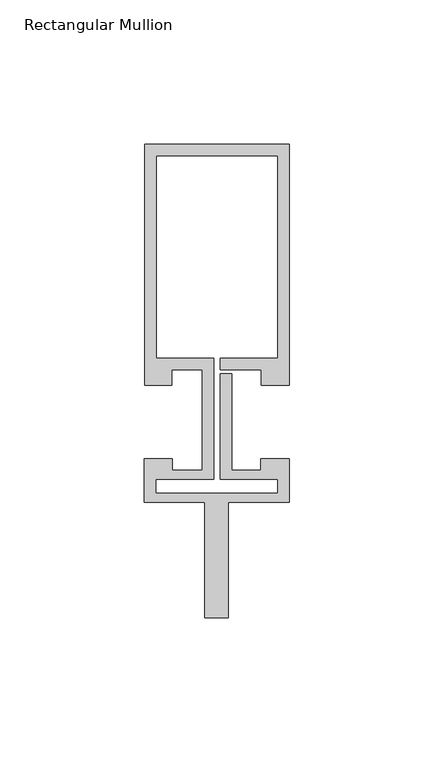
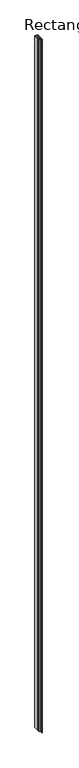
"""IFC4 building model written with IfcOpenShell, lengths in millimetres: member geometry, Rectangular Mullion : Reynaers_CW-50_Transom-Transom_83.5mm_Facecap-06B."""

import ifcopenshell
import ifcopenshell.guid

model = None  # the IFC model being written
_history = None  # IfcOwnerHistory: only IFC2X3 demands one
_inside = {}  # id of a spatial element -> (the spatial element, [elements in it])
_under = {}  # id of a project, library or spatial element -> (it, [spatial elements below it])
_declared = {}  # id of a project -> (the project, [libraries it declares])
_typed = {}  # id of a type object -> (the type object, [elements of that type])
_made_of = {}  # id of a material, layer set ... -> (it, [elements and type objects made of it])


def new_model(schema):
    """Start an empty IFC model of exactly this schema.

    Asked for "IFC4X3", IfcOpenShell would pick the latest addendum, in which some entities
    have other attributes; the version numbers below select the first issue.
    IFC2X3 requires an IfcOwnerHistory on every rooted entity: one is made here for all.
    """
    global model, _history
    if schema == "IFC4X3":
        model = ifcopenshell.file(schema_version=(4, 3, 0, 0))
    else:
        model = ifcopenshell.file(schema=schema)
    _inside.clear()
    _under.clear()
    _declared.clear()
    _typed.clear()
    _made_of.clear()
    _history = None
    if model.schema == "IFC2X3":
        org = make("IfcOrganization", Name="unknown")
        user = make(
            "IfcPersonAndOrganization",
            ThePerson=make("IfcPerson", FamilyName="unknown"),
            TheOrganization=org,
        )
        app = make(
            "IfcApplication",
            ApplicationDeveloper=org,
            Version="unknown",
            ApplicationFullName="unknown",
            ApplicationIdentifier="unknown",
        )
        _history = make(
            "IfcOwnerHistory",
            OwningUser=user,
            OwningApplication=app,
            ChangeAction="ADDED",
            CreationDate=0,
        )
    return model


def make(cls, **values):
    """One entity of the class cls with the attributes given. An attribute that is None is left unset."""
    return model.create_entity(
        cls, **{name: value for name, value in values.items() if value is not None}
    )


def rooted(cls, **values):
    """An entity with a GlobalId (a new one), such as an element, a storey or a relation."""
    return make(cls, GlobalId=ifcopenshell.guid.new(), OwnerHistory=_history, **values)


def si_unit(unit_type, name, prefix=None):
    """IfcSIUnit, for example si_unit("LENGTHUNIT", "METRE", prefix="MILLI")."""
    return make("IfcSIUnit", UnitType=unit_type, Prefix=prefix, Name=name)


def assignment(units):
    """IfcUnitAssignment: the units of a project."""
    return None if units is None else make("IfcUnitAssignment", Units=units)


def point(xyz):
    """IfcCartesianPoint."""
    return None if xyz is None else make("IfcCartesianPoint", Coordinates=xyz)


def direction(xyz):
    """IfcDirection."""
    return None if xyz is None else make("IfcDirection", DirectionRatios=xyz)


def frame(location, z_axis=None, x_axis=None):
    """IfcAxis2Placement3D, a coordinate frame: its origin and axes. An axis left out is left unset."""
    return make(
        "IfcAxis2Placement3D",
        Location=point(location),
        Axis=direction(z_axis),
        RefDirection=direction(x_axis),
    )


def origin():
    """The frame at (0, 0, 0) with its axes left unset."""
    return frame((0.0, 0.0, 0.0))


def place(relative_to, where):
    """IfcLocalPlacement: puts the frame where relative to a parent placement (None: the world)."""
    return make(
        "IfcLocalPlacement", PlacementRelTo=relative_to, RelativePlacement=where
    )


def context(
    kind, dimensions, precision=None, world=None, true_north=None, identifier=None
):
    """IfcGeometricRepresentationContext, for example the 3D "Model" context."""
    return make(
        "IfcGeometricRepresentationContext",
        ContextIdentifier=identifier,
        ContextType=kind,
        CoordinateSpaceDimension=dimensions,
        Precision=precision,
        WorldCoordinateSystem=world,
        TrueNorth=true_north,
    )


def project(units=None, contexts=None):
    """IfcProject with its units and contexts."""
    return rooted(
        "IfcProject",
        Name="project",
        RepresentationContexts=contexts,
        UnitsInContext=assignment(units),
    )


def spatial(cls, under=None, at=None, **own):
    """A site, building, storey or space (cls), placed at a placement, below another one or the project."""
    s = rooted(cls, ObjectPlacement=at, **own)
    if under is not None:
        _under.setdefault(under.id(), (under, []))[1].append(s)
    return s


def polyline(points):
    """IfcPolyline through the points."""
    return make("IfcPolyline", Points=[point(p) for p in points])


def outline(outer, holes=None, kind="AREA"):
    """IfcArbitraryClosedProfileDef: a profile drawn as a closed curve; with holes, ...WithVoids."""
    if holes is None:
        return make("IfcArbitraryClosedProfileDef", ProfileType=kind, OuterCurve=outer)
    return make(
        "IfcArbitraryProfileDefWithVoids",
        ProfileType=kind,
        OuterCurve=outer,
        InnerCurves=holes,
    )


def extrude(swept, where, along, depth):
    """IfcExtrudedAreaSolid: the profile swept, set in the frame where, extruded along a direction by depth."""
    return make(
        "IfcExtrudedAreaSolid",
        SweptArea=swept,
        Position=where,
        ExtrudedDirection=direction(along),
        Depth=depth,
    )


def shape(context_of_items, identifier, shape_type, items):
    """IfcShapeRepresentation: the items that make up one representation, for example the "Body"."""
    return make(
        "IfcShapeRepresentation",
        ContextOfItems=context_of_items,
        RepresentationIdentifier=identifier,
        RepresentationType=shape_type,
        Items=items,
    )


def source(mapping_origin, context_of_items, identifier, shape_type, items):
    """IfcRepresentationMap: a shape defined once, which mapped items show again and again."""
    return make(
        "IfcRepresentationMap",
        MappingOrigin=mapping_origin,
        MappedRepresentation=shape(context_of_items, identifier, shape_type, items),
    )


def transform(
    local_origin,
    x_axis=None,
    y_axis=None,
    z_axis=None,
    scale=None,
    scale2=None,
    scale3=None,
    uniform=True,
):
    """IfcCartesianTransformationOperator3D, or its non-uniform kind. x_axis, y_axis, z_axis: its Axis1, 2, 3."""
    if uniform:
        return make(
            "IfcCartesianTransformationOperator3D",
            Axis1=direction(x_axis),
            Axis2=direction(y_axis),
            LocalOrigin=point(local_origin),
            Scale=scale,
            Axis3=direction(z_axis),
        )
    return make(
        "IfcCartesianTransformationOperator3DnonUniform",
        Axis1=direction(x_axis),
        Axis2=direction(y_axis),
        LocalOrigin=point(local_origin),
        Scale=scale,
        Axis3=direction(z_axis),
        Scale2=scale2,
        Scale3=scale3,
    )


def mapped(mapping_source, mapping_target):
    """IfcMappedItem: shows the shape of a source again, moved by a transform."""
    return make(
        "IfcMappedItem", MappingSource=mapping_source, MappingTarget=mapping_target
    )


def made_of(thing, what):
    """Note that an element or type object is made of a material, layer set ...; save() writes the relation."""
    if what is not None:
        _made_of.setdefault(what.id(), (what, []))[1].append(thing)
    return thing


def element(
    cls,
    number,
    at=None,
    inside=None,
    cuts=None,
    type_object=None,
    material=None,
    context=None,
    identifier="Body",
    shape_type=None,
    held_by="IfcProductDefinitionShape",
    body=None,
    shapes=None,
    **own,
):
    """One element of the class cls, such as IfcWall. Its Tag is "e" and its number.

    at: its placement. inside: the storey or other place that contains it. cuts: it is an
    opening in that element (IfcRelVoidsElement). A single representation is given by context,
    identifier, shape_type and body (its items); several are given by shapes. held_by: the class
    of the entity that holds the representations. save() writes the other relations.
    """
    e = rooted(cls, Tag="e%d" % number, ObjectPlacement=at, **own)
    if body is not None:
        shapes = [shape(context, identifier, shape_type, body)]
    if shapes is not None:
        e.Representation = make(held_by, Representations=shapes)
    if inside is not None:
        _inside.setdefault(inside.id(), (inside, []))[1].append(e)
    if cuts is not None:
        rooted(
            "IfcRelVoidsElement", RelatingBuildingElement=cuts, RelatedOpeningElement=e
        )
    if type_object is not None:
        _typed.setdefault(type_object.id(), (type_object, []))[1].append(e)
    return made_of(e, material)


def aggregate(whole, parts):
    """IfcRelAggregates: a whole, such as a stair, and the parts it consists of."""
    return rooted("IfcRelAggregates", RelatingObject=whole, RelatedObjects=parts)


def save(model, path):
    """Write the relations noted so far, then the file.

    IfcRelAggregates (storeys below a building ...), IfcRelContainedInSpatialStructure (elements
    in a storey), IfcRelDefinesByType, IfcRelAssociatesMaterial and IfcRelDeclares: one each for
    every whole, place, type object, material and project.
    """
    for whole, parts in _under.values():
        aggregate(whole, parts)
    for where, things in _inside.values():
        rooted(
            "IfcRelContainedInSpatialStructure",
            RelatedElements=things,
            RelatingStructure=where,
        )
    for kind, things in _typed.values():
        rooted("IfcRelDefinesByType", RelatedObjects=things, RelatingType=kind)
    for what, things in _made_of.values():
        rooted("IfcRelAssociatesMaterial", RelatedObjects=things, RelatingMaterial=what)
    for by, libraries in _declared.values():
        rooted("IfcRelDeclares", RelatingContext=by, RelatedDefinitions=libraries)
    model.write(path)


def rectangular_mullion_65842ac5(model_context):
    return source(origin(), model_context, "Body", "SweptSolid", [
        extrude(outline(polyline([(25.1995941, 12.7331291), (15.499, 12.7331291), (15.499, 18.1331291), (1.2995941, 18.1331291), (1.2995941, 22.1331291), (21.1995941, 22.1331291), (21.1995941, 92.2331291), (-20.8004059, 92.2331291), (-20.8004059, 22.1331291), (-0.9004059, 22.1331291), (-0.9004059, -19.7331291), (-20.994845, -19.7331291), (-20.994845, -24.6522629), (21.1995941, -24.6522629), (21.1995941, -19.7331291), (1.2995941, -19.7331291), (1.2995941, 16.7615089), (5.2995941, 16.7615089), (5.2995941, -16.7331291), (15.2996495, -16.7331291), (15.2996495, -12.7331291), (25.1995941, -12.7331291), (25.1995941, -27.7331291), (4.004855, -27.7331291), (4.004855, -67.7331291), (-3.995145, -67.7331291), (-3.995145, -27.7331291), (-24.994845, -27.7331291), (-24.994845, -12.7331291), (-15.2996495, -12.7331291), (-15.2996495, -16.7331291), (-4.9004059, -16.7331291), (-4.9004059, 18.1331291), (-15.499, 18.1331291), (-15.499, 12.7331291), (-24.8004059, 12.7331291), (-24.8004059, 96.2331291), (25.1995941, 96.2331291), (25.1995941, 12.7331291)])), frame((0.0, 0.0, -12000.0), z_axis=(0.0, 0.0, 1.0), x_axis=(1.0, 0.0, 0.0)), (0.0, 0.0, 1.0), 12000.0),
    ])


if __name__ == "__main__":
    model = new_model("IFC4")
    model_context = context("Model", 3, world=origin())
    ifc_project = project(units=[si_unit("LENGTHUNIT", "METRE", prefix="MILLI")], contexts=[model_context])
    site = spatial("IfcSite", under=ifc_project)
    building = spatial("IfcBuilding", under=site)
    placement = place(None, origin())
    rectangular_mullion_shape = rectangular_mullion_65842ac5(model_context)
    element("IfcMember", 1, ObjectType="Rectangular Mullion : Reynaers_CW-50_Transom-Transom_83.5mm_Facecap-06B", at=placement, inside=building, context=model_context, shape_type="MappedRepresentation", body=[
        mapped(rectangular_mullion_shape, transform((0.0, 0.0, 0.0), x_axis=(1.0, 0.0, 0.0), y_axis=(0.0, 1.0, 0.0), z_axis=(0.0, 0.0, 1.0))),
    ])
    save(model, "model.ifc")
